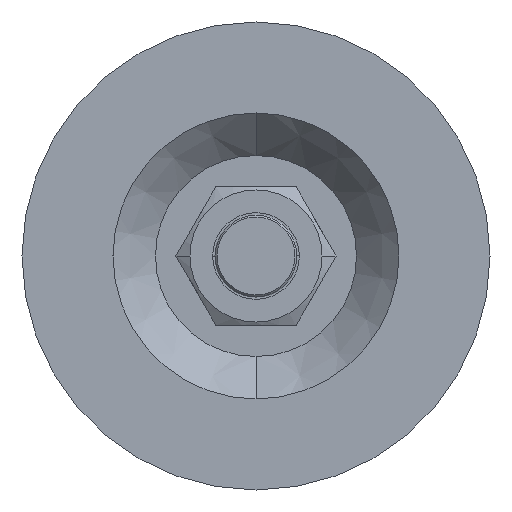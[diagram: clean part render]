
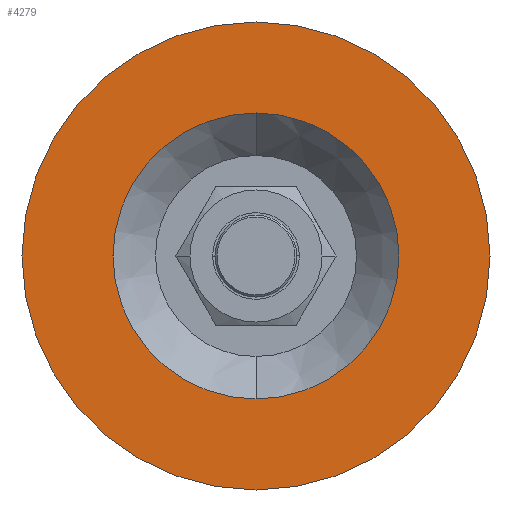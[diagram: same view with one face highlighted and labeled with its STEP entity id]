
A CAD part, front view. The second image highlights one B-rep face of the part: STEP entity #4279.
In plain terms, the highlighted planar face has unit normal (0, -1, 0).
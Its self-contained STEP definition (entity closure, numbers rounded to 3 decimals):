
#53 = DIRECTION ( 'NONE',  ( 0., 0., -1. ) ) ;
#56 = CARTESIAN_POINT ( 'NONE',  ( 0., -3.2, 16.5 ) ) ;
#79 = CIRCLE ( 'NONE', #6178, 27. ) ;
#99 = CARTESIAN_POINT ( 'NONE',  ( 0., -3.2, 0. ) ) ;
#754 = EDGE_CURVE ( 'NONE', #7743, #5036, #2184, .T. ) ;
#880 = CARTESIAN_POINT ( 'NONE',  ( 0., -3.2, 27. ) ) ;
#929 = ORIENTED_EDGE ( 'NONE', *, *, #7152, .F. ) ;
#1261 = AXIS2_PLACEMENT_3D ( 'NONE', #1332, #4348, #53 ) ;
#1332 = CARTESIAN_POINT ( 'NONE',  ( 0., -3.2, -27. ) ) ;
#1413 = FACE_BOUND ( 'NONE', #2936, .T. ) ;
#1514 = EDGE_LOOP ( 'NONE', ( #2077, #4039 ) ) ;
#1963 = CIRCLE ( 'NONE', #6027, 16.5 ) ;
#2010 = DIRECTION ( 'NONE',  ( 0., 0., -1. ) ) ;
#2034 = AXIS2_PLACEMENT_3D ( 'NONE', #4009, #2213, #7739 ) ;
#2077 = ORIENTED_EDGE ( 'NONE', *, *, #5308, .T. ) ;
#2089 = DIRECTION ( 'NONE',  ( 0., -1., 0. ) ) ;
#2184 = CIRCLE ( 'NONE', #2034, 27. ) ;
#2213 = DIRECTION ( 'NONE',  ( 0., -1., 0. ) ) ;
#2331 = VERTEX_POINT ( 'NONE', #56 ) ;
#2636 = AXIS2_PLACEMENT_3D ( 'NONE', #5705, #6875, #2010 ) ;
#2882 = VERTEX_POINT ( 'NONE', #7760 ) ;
#2936 = EDGE_LOOP ( 'NONE', ( #929, #3254 ) ) ;
#3254 = ORIENTED_EDGE ( 'NONE', *, *, #5675, .F. ) ;
#4009 = CARTESIAN_POINT ( 'NONE',  ( 0., -3.2, 0. ) ) ;
#4039 = ORIENTED_EDGE ( 'NONE', *, *, #754, .T. ) ;
#4205 = FACE_OUTER_BOUND ( 'NONE', #1514, .T. ) ;
#4279 = ADVANCED_FACE ( 'NONE', ( #4205, #1413 ), #6139, .T. ) ;
#4348 = DIRECTION ( 'NONE',  ( 0., -1., 0. ) ) ;
#4919 = DIRECTION ( 'NONE',  ( 0., 0., -1. ) ) ;
#4973 = CIRCLE ( 'NONE', #2636, 16.5 ) ;
#5036 = VERTEX_POINT ( 'NONE', #6316 ) ;
#5117 = DIRECTION ( 'NONE',  ( 0., 0., -1. ) ) ;
#5137 = CARTESIAN_POINT ( 'NONE',  ( 0., -3.2, 0. ) ) ;
#5308 = EDGE_CURVE ( 'NONE', #5036, #7743, #79, .T. ) ;
#5675 = EDGE_CURVE ( 'NONE', #2331, #2882, #4973, .T. ) ;
#5705 = CARTESIAN_POINT ( 'NONE',  ( 0., -3.2, 0. ) ) ;
#6027 = AXIS2_PLACEMENT_3D ( 'NONE', #5137, #2089, #5117 ) ;
#6139 = PLANE ( 'NONE',  #1261 ) ;
#6178 = AXIS2_PLACEMENT_3D ( 'NONE', #99, #7341, #4919 ) ;
#6316 = CARTESIAN_POINT ( 'NONE',  ( 0., -3.2, -27. ) ) ;
#6875 = DIRECTION ( 'NONE',  ( 0., -1., 0. ) ) ;
#7152 = EDGE_CURVE ( 'NONE', #2882, #2331, #1963, .T. ) ;
#7341 = DIRECTION ( 'NONE',  ( 0., -1., 0. ) ) ;
#7739 = DIRECTION ( 'NONE',  ( 0., 0., -1. ) ) ;
#7743 = VERTEX_POINT ( 'NONE', #880 ) ;
#7760 = CARTESIAN_POINT ( 'NONE',  ( 0., -3.2, -16.5 ) ) ;
